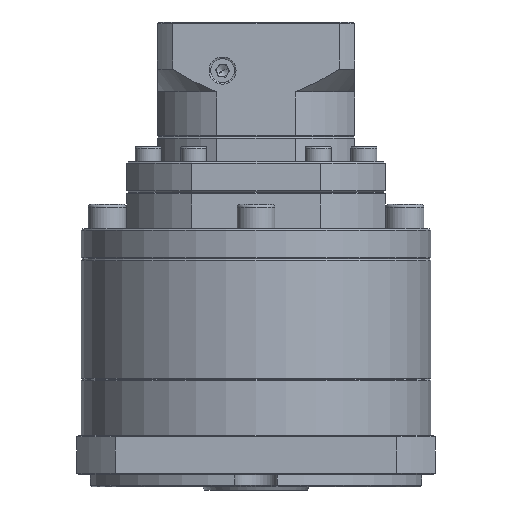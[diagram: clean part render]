
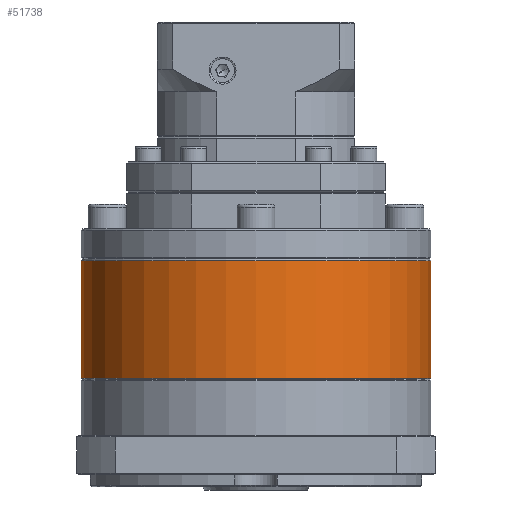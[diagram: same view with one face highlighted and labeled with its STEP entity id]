
A CAD part, front view. The second image highlights one B-rep face of the part: STEP entity #51738.
In plain terms, the highlighted cylindrical face has radius 57.5 mm (diameter 115 mm), a partial arc.
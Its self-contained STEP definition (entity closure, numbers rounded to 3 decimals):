
#5574 = CARTESIAN_POINT ( 'NONE',  ( 130.309, 84.948, -103.871 ) ) ;
#14685 = CARTESIAN_POINT ( 'NONE',  ( 72.809, 84.948, -103.871 ) ) ;
#17358 = CARTESIAN_POINT ( 'NONE',  ( 15.309, 84.948, -103.371 ) ) ;
#19256 = CARTESIAN_POINT ( 'NONE',  ( 130.309, 84.948, -142.583 ) ) ;
#22296 = CARTESIAN_POINT ( 'NONE',  ( 15.309, 84.948, -103.871 ) ) ;
#22312 = DIRECTION ( 'NONE',  ( 0., 0., -1. ) ) ;
#24216 = CARTESIAN_POINT ( 'NONE',  ( 72.809, 84.948, -103.371 ) ) ;
#31343 = AXIS2_PLACEMENT_3D ( 'NONE', #89587, #99462, #90421 ) ;
#32077 = CARTESIAN_POINT ( 'NONE',  ( 15.309, 84.948, -142.583 ) ) ;
#33191 = LINE ( 'NONE', #60882, #96008 ) ;
#33354 = CYLINDRICAL_SURFACE ( 'NONE', #72814, 57.5 ) ;
#36395 = AXIS2_PLACEMENT_3D ( 'NONE', #14685, #113768, #83301 ) ;
#43510 = VERTEX_POINT ( 'NONE', #5574 ) ;
#51738 = ADVANCED_FACE ( 'NONE', ( #80879 ), #33354, .T. ) ;
#58567 = EDGE_CURVE ( 'NONE', #94933, #85126, #87728, .T. ) ;
#60882 = CARTESIAN_POINT ( 'NONE',  ( 130.309, 84.948, -103.371 ) ) ;
#64310 = ORIENTED_EDGE ( 'NONE', *, *, #108987, .F. ) ;
#71659 = CIRCLE ( 'NONE', #36395, 57.5 ) ;
#72814 = AXIS2_PLACEMENT_3D ( 'NONE', #24216, #74730, #123412 ) ;
#74730 = DIRECTION ( 'NONE',  ( 0., 0., -1. ) ) ;
#75307 = EDGE_LOOP ( 'NONE', ( #64310, #122680, #94058, #104965 ) ) ;
#80879 = FACE_OUTER_BOUND ( 'NONE', #75307, .T. ) ;
#81602 = EDGE_CURVE ( 'NONE', #43510, #94933, #71659, .T. ) ;
#83301 = DIRECTION ( 'NONE',  ( -1., 0., 0. ) ) ;
#85126 = VERTEX_POINT ( 'NONE', #32077 ) ;
#85462 = DIRECTION ( 'NONE',  ( 0., 0., -1. ) ) ;
#87728 = LINE ( 'NONE', #17358, #101499 ) ;
#89587 = CARTESIAN_POINT ( 'NONE',  ( 72.809, 84.948, -142.583 ) ) ;
#90421 = DIRECTION ( 'NONE',  ( -1., 0., 0. ) ) ;
#94058 = ORIENTED_EDGE ( 'NONE', *, *, #58567, .T. ) ;
#94933 = VERTEX_POINT ( 'NONE', #22296 ) ;
#96008 = VECTOR ( 'NONE', #22312, 1000. ) ;
#99462 = DIRECTION ( 'NONE',  ( 0., 0., 1. ) ) ;
#101499 = VECTOR ( 'NONE', #85462, 1000. ) ;
#104965 = ORIENTED_EDGE ( 'NONE', *, *, #110533, .T. ) ;
#108987 = EDGE_CURVE ( 'NONE', #43510, #111109, #33191, .T. ) ;
#110533 = EDGE_CURVE ( 'NONE', #85126, #111109, #119625, .T. ) ;
#111109 = VERTEX_POINT ( 'NONE', #19256 ) ;
#113768 = DIRECTION ( 'NONE',  ( 0., 0., -1. ) ) ;
#119625 = CIRCLE ( 'NONE', #31343, 57.5 ) ;
#122680 = ORIENTED_EDGE ( 'NONE', *, *, #81602, .T. ) ;
#123412 = DIRECTION ( 'NONE',  ( -1., 0., 0. ) ) ;
